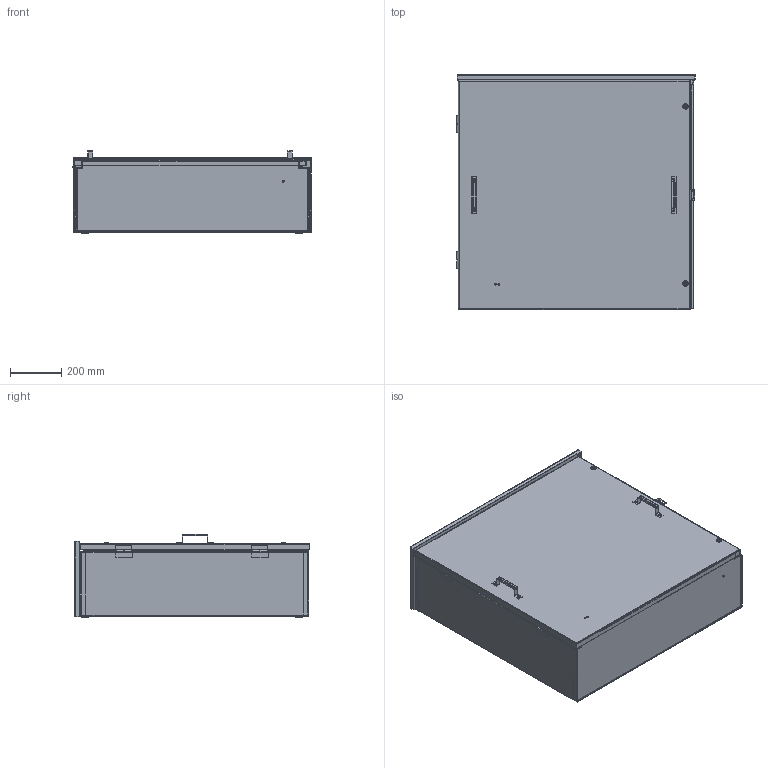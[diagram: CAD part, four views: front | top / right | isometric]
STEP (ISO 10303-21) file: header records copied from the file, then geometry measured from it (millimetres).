
FILE_DESCRIPTION (( 'STEP AP203' ), '1' );
FILE_NAME ('A363611NGCT.STEP', '2014-05-16T13:44:23', ( 'User' ), ( 'Pentair Inc' ), 'SwSTEP 2.0', 'SolidWorks 2010', '' );
FILE_SCHEMA (( 'CONFIG_CONTROL_DESIGN' ));
Length unit declared in the file: inch
Products named in the file (20): A363611NGCT; 89071988; 89071991; 89110864; 89071992; 99407147_99407147; 87747666; 87747663; 58110007; 22112001_AFTER WELD; 89110836; 89071989; 78132001; 99404020_99404020; 87780173; 87788041_flexible; 79211001_HANDLE, PLTD; 89060042; 30170005; 89069380
Assembly tree (36 placements, depth 4):
  A363611NGCT
    87788041_flexible
      79211001_HANDLE, PLTD  x2
        30170005
        89060042
    89069380  x2
    89110836
      99404020_99404020  x2
      78132001
      89071989
      87780173  x2
    89071988
      87780173  x2
      22112001_AFTER WELD  x8
      89071991
      58110007  x2
      89110864
        99407147_99407147  x3
        89071992
      87747666
      87747663
Bounding box: 932.5 x 919.53 x 327.64 mm (x, y, z)
Volume: 6423917.6 mm3; surface area: 6062489.3 mm2
Topology: 33 solids, 33 shells, 1367 faces, 3255 edges, 2018 vertices
Faces by surface type: plane 634, cylinder 350, cone 171, torus 148, bspline 52, sphere 12
Entity records: 25940 total; most frequent: CARTESIAN_POINT 5621, DIRECTION 3906, ORIENTED_EDGE 3550, EDGE_CURVE 1775, AXIS2_PLACEMENT_3D 1479, VERTEX_POINT 1086, LINE 948, VECTOR 948
